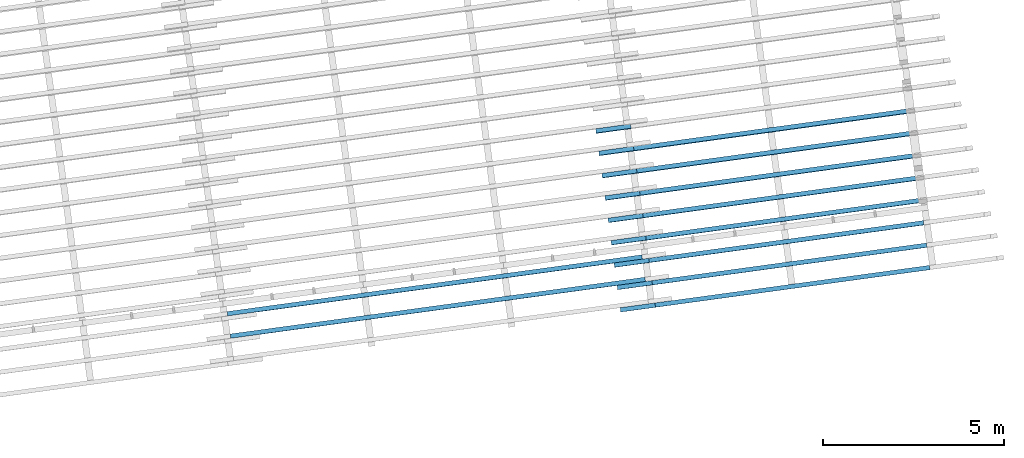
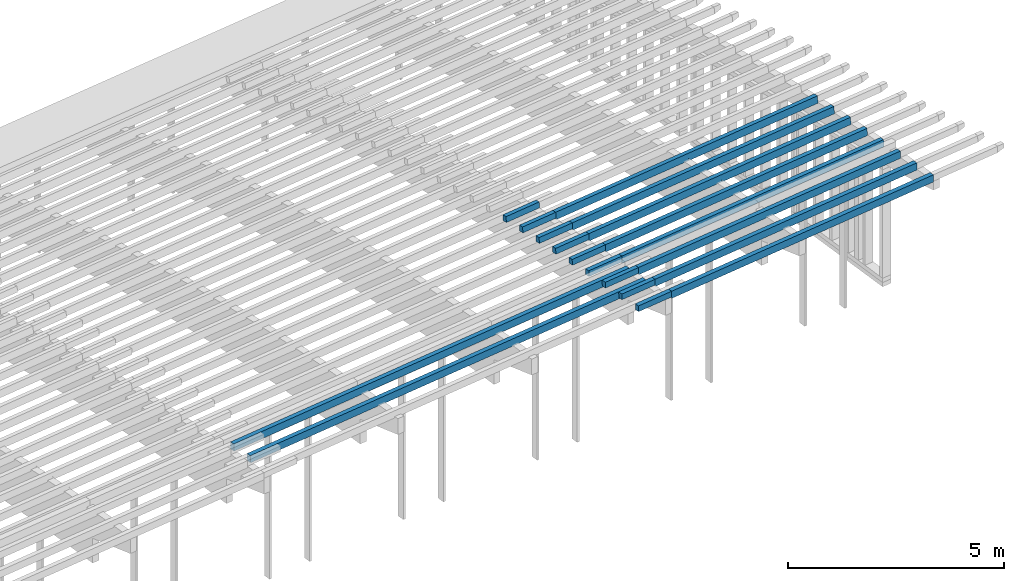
# One storey, part 10 of 18: 19 building element parts, 11 elements without a shape of their own.
"""IFC2X3 building model written with IfcOpenShell, lengths in metres."""

from ifc_helpers import new_model, entity, si_unit, converted_unit, derived_unit, money_unit, direction, frame, origin_with_axes, place, context, subcontext, project, spatial, faceted_brep, material, type_object, element, aggregate, save


model = new_model("IFC2X3")

# Units and contexts
model_context = context("Model", 3, precision=1e-05, world=origin_with_axes(), true_north=direction((0.0, 1.0)))
body_context = subcontext(model_context, "Body", "Model", "MODEL_VIEW")
ifc_project = project(units=[si_unit("LENGTHUNIT", "METRE"), si_unit("AREAUNIT", "SQUARE_METRE"), si_unit("VOLUMEUNIT", "CUBIC_METRE"), converted_unit("PLANEANGLEUNIT", "DEGREE", entity("IfcPlaneAngleMeasure", 0.0174532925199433), si_unit("PLANEANGLEUNIT", "RADIAN"), dimensions=[0, 0, 0, 0, 0, 0, 0]), money_unit("EUR"), converted_unit("TIMEUNIT", "Year", entity("IfcTimeMeasure", 31557600.0), si_unit("TIMEUNIT", "SECOND"), dimensions=[0, 0, 1, 0, 0, 0, 0]), si_unit("MASSUNIT", "GRAM", prefix="KILO"), si_unit("THERMODYNAMICTEMPERATUREUNIT", "DEGREE_CELSIUS"), si_unit("LUMINOUSINTENSITYUNIT", "LUMEN"), si_unit("ENERGYUNIT", "JOULE", prefix="MEGA"), derived_unit("THERMALCONDUCTANCEUNIT", [(si_unit("POWERUNIT", "WATT"), 1), (si_unit("LENGTHUNIT", "METRE"), -1), (si_unit("THERMODYNAMICTEMPERATUREUNIT", "KELVIN"), -1)]), derived_unit("SPECIFICHEATCAPACITYUNIT", [(si_unit("ENERGYUNIT", "JOULE"), 1), (si_unit("MASSUNIT", "GRAM", prefix="KILO"), -1), (si_unit("THERMODYNAMICTEMPERATUREUNIT", "KELVIN"), -1)]), derived_unit("MASSDENSITYUNIT", [(si_unit("MASSUNIT", "GRAM", prefix="KILO"), 1), (si_unit("VOLUMEUNIT", "CUBIC_METRE"), -1)])], contexts=[model_context])

# Site, building, storey
site_placement = place(None, origin_with_axes())
site = spatial("IfcSite", under=ifc_project, at=site_placement, Name="Gelände", CompositionType="ELEMENT")
building_placement = place(site_placement, origin_with_axes())
building = spatial("IfcBuilding", under=site, at=building_placement, Name="Gebäude", CompositionType="ELEMENT")
storey_placement = place(building_placement, frame((0.0, 0.0, 5.5), z_axis=(0.0, 0.0, 1.0), x_axis=(1.0, 0.0, 0.0)))
storey = spatial("IfcBuildingStorey", under=building, at=storey_placement, Name="OG", CompositionType="ELEMENT", Elevation=5.5)

# Beam, building element parts
beam_type_1 = type_object("IfcBeamType", Name="Verschiedene Strukturen - 4 Segmente - 120 x 200 x 10694 (970+7659+1875+190)", PredefinedType="NOTDEFINED")
beam_1_placement = place(storey_placement, frame((105.3127329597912, -150.0833279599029, 4.984403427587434), z_axis=(0.0, 0.0, 1.0), x_axis=(0.13571118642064, -0.9907484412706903, 0.0)))
beam_1 = element("IfcBeam", 1, at=beam_1_placement, inside=storey, type_object=beam_type_1, Name="Unterzug-031")
ifc_material = material(Name="Bauholz")
building_element_part_1_placement = place(beam_1_placement, origin_with_axes())
building_element_part_1 = element("IfcBuildingElementPart", 2, at=building_element_part_1_placement, material=ifc_material, Name="Bauholz", context=body_context, shape_type="Brep", body=[
    faceted_brep([(-0.05840531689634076, 0.0, -0.1605889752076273), (-0.05840531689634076, 0.9700000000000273, -0.1605889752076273), (0.06158874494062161, 0.9700000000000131, -0.1593951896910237), (0.06158874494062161, 0.0, -0.1593951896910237), (-0.05999703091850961, 0.0, -0.0005968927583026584), (-0.05999703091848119, 0.9700000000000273, -0.0005968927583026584), (0.05999703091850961, 0.9700000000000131, 0.0005968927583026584), (0.05999703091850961, 0.0, 0.0005968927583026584)], [[[0, 1, 2, 3]], [[4, 5, 1, 0]], [[2, 1, 5, 6]], [[3, 2, 6, 7]], [[4, 0, 3, 7]], [[7, 6, 5, 4]]]),
])
building_element_part_2_placement = place(beam_1_placement, origin_with_axes())
building_element_part_2 = element("IfcBuildingElementPart", 3, at=building_element_part_2_placement, material=ifc_material, Name="Bauholz", context=body_context, shape_type="Brep", body=[
    faceted_brep([(-0.05800738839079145, 0.9699999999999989, -0.2005869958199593), (-0.05800738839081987, 8.629151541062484, -0.2005869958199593), (0.06198667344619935, 8.629151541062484, -0.199393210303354), (0.06198667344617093, 0.9699999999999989, -0.199393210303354), (-0.05999703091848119, 0.9699999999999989, -0.0005968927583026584), (-0.05999703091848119, 8.629151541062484, -0.0005968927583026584), (0.05999703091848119, 8.629151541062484, 0.0005968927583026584), (0.05999703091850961, 0.9699999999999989, 0.0005968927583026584)], [[[0, 1, 2, 3]], [[4, 5, 1, 0]], [[2, 1, 5, 6]], [[3, 2, 6, 7]], [[4, 0, 3, 7]], [[7, 6, 5, 4]]]),
])
aggregate(beam_1, [building_element_part_1, building_element_part_2])

beam_type_2 = type_object("IfcBeamType", Name="Verschiedene Strukturen - 4 Segmente - 120 x 200 x 10600 (970+7659+1781+190)", PredefinedType="NOTDEFINED")
beam_2_placement = place(storey_placement, frame((105.2280311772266, -149.4649695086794, 4.975930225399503), z_axis=(0.0, 0.0, 1.0), x_axis=(0.1357111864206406, -0.9907484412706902, 0.0)))
beam_2 = element("IfcBeam", 4, at=beam_2_placement, inside=storey, type_object=beam_type_2, Name="Unterzug-031")
building_element_part_3_placement = place(beam_2_placement, origin_with_axes())
building_element_part_3 = element("IfcBuildingElementPart", 5, at=building_element_part_3_placement, material=ifc_material, Name="Bauholz", context=body_context, shape_type="Brep", body=[
    faceted_brep([(-0.05708604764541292, 0.0, -0.16106266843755), (-0.05708604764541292, 0.9699999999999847, -0.16106266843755), (0.06289418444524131, 0.9699999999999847, -0.1588846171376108), (0.06289418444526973, 0.0, -0.1588846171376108), (-0.05999011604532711, 0.0, -0.001089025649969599), (-0.05999011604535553, 0.9699999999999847, -0.001089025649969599), (0.05999011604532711, 0.9699999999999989, 0.001089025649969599), (0.05999011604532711, 0.0, 0.001089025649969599)], [[[0, 1, 2, 3]], [[4, 5, 1, 0]], [[2, 1, 5, 6]], [[3, 2, 6, 7]], [[4, 0, 3, 7]], [[7, 6, 5, 4]]]),
])
building_element_part_4_placement = place(beam_2_placement, origin_with_axes())
building_element_part_4 = element("IfcBuildingElementPart", 6, at=building_element_part_4_placement, material=ifc_material, Name="Bauholz", context=body_context, shape_type="Brep", body=[
    faceted_brep([(-0.05636003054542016, 0.9699999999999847, -0.201056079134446), (-0.05636003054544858, 8.629154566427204, -0.201056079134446), (0.06362020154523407, 8.629154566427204, -0.1988780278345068), (0.06362020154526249, 0.9699999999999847, -0.1988780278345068), (-0.05999011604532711, 0.9699999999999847, -0.001089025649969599), (-0.05999011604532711, 8.62915456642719, -0.001089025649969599), (0.05999011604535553, 8.62915456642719, 0.001089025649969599), (0.05999011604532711, 0.9699999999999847, 0.001089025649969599)], [[[0, 1, 2, 3]], [[4, 5, 1, 0]], [[2, 1, 5, 6]], [[3, 2, 6, 7]], [[4, 0, 3, 7]], [[7, 6, 5, 4]]]),
])
aggregate(beam_2, [building_element_part_3, building_element_part_4])

# Beam, building element part
beam_type_3 = type_object("IfcBeamType", Name="Verschiedene Strukturen - 3 Segmente - 120 x 200 x 12890 (660+11570+660)", PredefinedType="NOTDEFINED")
beam_3_placement = place(storey_placement, frame((93.87995743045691, -150.8985020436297, 4.973518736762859), z_axis=(0.0, 0.0, 1.0), x_axis=(0.1357111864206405, -0.9907484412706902, 0.0)))
beam_3 = element("IfcBeam", 7, at=beam_3_placement, inside=storey, type_object=beam_type_3, Name="Unterzug-031")
building_element_part_5_placement = place(beam_3_placement, origin_with_axes())
building_element_part_5 = element("IfcBuildingElementPart", 8, at=building_element_part_5_placement, material=ifc_material, Name="Bauholz", context=body_context, shape_type="Brep", body=[
    faceted_brep([(-0.05998705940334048, 12.22957971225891, -0.001246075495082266), (0.05980176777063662, 12.22957971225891, 0.001242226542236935), (0.06270437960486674, 12.2295797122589, -0.1586511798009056), (0.06330828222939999, 12.22957971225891, -0.1586402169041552), (0.06414064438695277, 12.2295797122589, -0.1987107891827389), (-0.05583347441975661, 12.22957971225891, -0.2012029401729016), (0.05998705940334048, 11.43763277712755, 0.001246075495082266), (0.05980176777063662, 11.43763277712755, 0.001242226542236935), (-0.05998705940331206, 0.6599999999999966, -0.001246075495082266), (0.05980176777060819, 0.660000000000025, 0.001242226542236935), (0.05980176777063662, 1.451946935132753, 0.001242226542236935), (0.05998705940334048, 1.451946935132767, 0.001246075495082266), (0.06270437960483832, 11.43763277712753, -0.1586511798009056), (0.06330828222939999, 11.43763277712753, -0.1586402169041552), (0.06330828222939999, 1.451946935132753, -0.1586402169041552), (0.06330828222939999, 0.6600000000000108, -0.1586402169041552), (0.0641406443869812, 0.6599999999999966, -0.1987107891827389), (-0.05583347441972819, 0.6600000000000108, -0.2012029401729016), (0.06270437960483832, 0.6599999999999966, -0.1586511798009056), (0.06270437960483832, 1.451946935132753, -0.1586511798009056)], [[[0, 1, 2, 3, 4, 5]], [[6, 7, 1, 0, 8, 9, 10, 11]], [[12, 2, 1, 7]], [[12, 13, 3, 2]], [[3, 13, 6, 11, 14, 15, 16, 4]], [[4, 16, 17, 5]], [[5, 17, 8, 0]], [[7, 6, 13, 12]], [[16, 15, 18, 9, 8, 17]], [[18, 19, 10, 9]], [[10, 19, 14, 11]], [[19, 18, 15, 14]]]),
])
aggregate(beam_3, [building_element_part_5])

# Beam, building element parts
beam_type_4 = type_object("IfcBeamType", Name="Verschiedene Strukturen - 4 Segmente - 120 x 200 x 10509 (970+7659+1690+190)", PredefinedType="NOTDEFINED")
beam_4_placement = place(storey_placement, frame((105.1432004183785, -148.8456694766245, 4.960992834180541), z_axis=(0.0, 0.0, 1.0), x_axis=(0.1357111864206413, -0.9907484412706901, 0.0)))
beam_4 = element("IfcBeam", 9, at=beam_4_placement, inside=storey, type_object=beam_type_4, Name="Unterzug-031")
building_element_part_6_placement = place(beam_4_placement, origin_with_axes())
building_element_part_6 = element("IfcBuildingElementPart", 10, at=building_element_part_6_placement, material=ifc_material, Name="Bauholz", context=body_context, shape_type="Brep", body=[
    faceted_brep([(-0.05533987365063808, 0.0, -0.1616709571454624), (-0.05533987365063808, 0.7919469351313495, -0.1616709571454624), (-0.05482641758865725, 0.7919469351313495, -0.1616560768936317), (-0.05482641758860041, 0.9699999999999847, -0.1616560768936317), (0.0646097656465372, 0.9699999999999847, -0.1581947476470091), (0.0646097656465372, 0.0, -0.1581947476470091), (-0.05997390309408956, 0.9699999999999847, -0.001769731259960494), (-0.05997390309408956, 0.7919469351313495, -0.001769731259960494), (-0.05997481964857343, 0.0, -0.001738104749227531), (-0.05997481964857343, 0.9699999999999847, -0.001738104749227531), (-0.0597674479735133, 0.7919469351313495, -0.001763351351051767), (-0.05976744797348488, 0.9699999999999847, -0.001763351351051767), (0.05997481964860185, 0.9699999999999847, 0.001738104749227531), (0.05997481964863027, 0.0, 0.001738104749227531)], [[[0, 1, 2, 3, 4, 5]], [[6, 7, 1, 0, 8, 9]], [[10, 2, 1, 7]], [[10, 11, 3, 2]], [[3, 11, 6, 9, 12, 4]], [[13, 5, 4, 12]], [[13, 8, 0, 5]], [[7, 6, 11, 10]], [[8, 13, 12, 9]]]),
])
building_element_part_7_placement = place(beam_4_placement, origin_with_axes())
building_element_part_7 = element("IfcBuildingElementPart", 11, at=building_element_part_7_placement, material=ifc_material, Name="Bauholz", context=body_context, shape_type="Brep", body=[
    faceted_brep([(-0.0553389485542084, 1.45194693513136, -0.1617028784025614), (-0.05997390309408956, 1.451946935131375, -0.001769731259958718), (-0.05997390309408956, 0.9699999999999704, -0.001769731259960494), (-0.05997481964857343, 0.9699999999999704, -0.001738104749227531), (-0.05997481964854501, 8.629151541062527, -0.001738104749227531), (-0.05418113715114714, 8.62915154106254, -0.201654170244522), (-0.05418113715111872, 0.9699999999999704, -0.201654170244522), (-0.05533894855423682, 0.9699999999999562, -0.1617028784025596), (-0.0597674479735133, 1.45194693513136, -0.001763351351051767), (-0.05482546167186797, 1.45194693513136, -0.1616870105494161), (-0.05976744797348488, 0.9699999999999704, -0.001763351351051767), (-0.05482546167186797, 0.9699999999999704, -0.1616870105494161), (0.06576850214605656, 0.9699999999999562, -0.198177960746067), (0.05997481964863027, 0.9699999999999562, 0.001738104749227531), (0.05997481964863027, 8.629151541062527, 0.001738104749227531), (0.06576850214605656, 8.629151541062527, -0.198177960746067)], [[[0, 1, 2, 3, 4, 5, 6, 7]], [[8, 1, 0, 9]], [[10, 2, 1, 8]], [[10, 11, 7, 6, 12, 13, 3, 2]], [[3, 13, 14, 4]], [[14, 15, 5, 4]], [[12, 6, 5, 15]], [[9, 0, 7, 11]], [[9, 11, 10, 8]], [[13, 12, 15, 14]]]),
])
aggregate(beam_4, [building_element_part_6, building_element_part_7])

# Beam, building element part
beam_5_placement = place(storey_placement, frame((93.79513367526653, -150.2792531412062, 4.957376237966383), z_axis=(0.0, 0.0, 1.0), x_axis=(0.1357111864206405, -0.9907484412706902, 0.0)))
beam_5 = element("IfcBeam", 12, at=beam_5_placement, inside=storey, type_object=beam_type_3, Name="Unterzug-031")
building_element_part_8_placement = place(beam_5_placement, origin_with_axes())
building_element_part_8 = element("IfcBuildingElementPart", 13, at=building_element_part_8_placement, material=ifc_material, Name="Bauholz", context=body_context, shape_type="Brep", body=[
    faceted_brep([(-0.05997137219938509, 12.22957971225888, -0.00185324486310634), (0.0597649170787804, 12.22957971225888, 0.001846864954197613), (0.0643989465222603, 12.22957971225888, -0.1580543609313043), (0.06491240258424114, 12.2295797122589, -0.1580394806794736), (0.06614885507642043, 12.22957971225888, -0.1980513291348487), (-0.05379388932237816, 12.22957971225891, -0.2017578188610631), (0.05997137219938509, 11.43763277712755, 0.00185324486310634), (0.0597649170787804, 11.43763277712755, 0.00184686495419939), (-0.05997137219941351, 0.6599999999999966, -0.00185324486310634), (0.05976491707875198, 0.6599999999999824, 0.001846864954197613), (0.05976491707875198, 1.451946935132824, 0.001846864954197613), (0.05997137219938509, 1.451946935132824, 0.00185324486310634), (0.06439894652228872, 11.43763277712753, -0.1580543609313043), (0.06491240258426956, 11.43763277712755, -0.1580394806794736), (0.06491240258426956, 1.45194693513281, -0.1580394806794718), (0.06491240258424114, 0.6599999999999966, -0.1580394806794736), (0.06614885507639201, 0.6599999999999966, -0.1980513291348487), (-0.05379388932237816, 0.6599999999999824, -0.2017578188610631), (0.06439894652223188, 0.6599999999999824, -0.1580543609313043), (0.06439894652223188, 1.45194693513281, -0.1580543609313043)], [[[0, 1, 2, 3, 4, 5]], [[6, 7, 1, 0, 8, 9, 10, 11]], [[12, 2, 1, 7]], [[12, 13, 3, 2]], [[3, 13, 6, 11, 14, 15, 16, 4]], [[4, 16, 17, 5]], [[5, 17, 8, 0]], [[7, 6, 13, 12]], [[16, 15, 18, 9, 8, 17]], [[18, 19, 10, 9]], [[10, 19, 14, 11]], [[19, 18, 15, 14]]]),
])
aggregate(beam_5, [building_element_part_8])

# Beam, building element parts
beam_type_5 = type_object("IfcBeamType", Name="Verschiedene Strukturen - 4 Segmente - 120 x 200 x 10426 (970+7659+1607+190)", PredefinedType="NOTDEFINED")
beam_6_placement = place(storey_placement, frame((105.0584006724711, -148.2265958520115, 4.939661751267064), z_axis=(0.0, 0.0, 1.0), x_axis=(0.1357111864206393, -0.9907484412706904, 0.0)))
beam_6 = element("IfcBeam", 14, at=beam_6_placement, inside=storey, type_object=beam_type_5, Name="Unterzug-031")
building_element_part_9_placement = place(beam_6_placement, origin_with_axes())
building_element_part_9 = element("IfcBuildingElementPart", 15, at=building_element_part_9_placement, material=ifc_material, Name="Bauholz", context=body_context, shape_type="Brep", body=[
    faceted_brep([(-0.05378541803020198, 0.0, -0.1621947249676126), (-0.05378541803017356, 0.7919469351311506, -0.1621947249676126), (-0.05339659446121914, 0.7919469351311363, -0.1621797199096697), (-0.05339659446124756, 0.9699999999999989, -0.1621797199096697), (0.06612532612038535, 0.9700000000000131, -0.1575672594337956), (0.06612532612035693, 0.0, -0.1575672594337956), (-0.05992630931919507, 0.9700000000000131, -0.003066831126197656), (-0.05992630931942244, 0.7919469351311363, -0.003066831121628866), (-0.05995537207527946, 0.0, -0.002313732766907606), (-0.05995537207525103, 0.9700000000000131, -0.002313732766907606), (0.05995537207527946, 0.9699999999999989, 0.002313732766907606), (0.05995537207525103, 0.0, 0.002313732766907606)], [[[0, 1, 2, 3, 4, 5]], [[6, 7, 1, 0, 8, 9]], [[7, 2, 1]], [[7, 6, 3, 2]], [[4, 3, 6, 9, 10]], [[4, 10, 11, 5]], [[0, 5, 11, 8]], [[10, 9, 8, 11]]]),
])
building_element_part_10_placement = place(beam_6_placement, origin_with_axes())
building_element_part_10 = element("IfcBuildingElementPart", 16, at=building_element_part_10_placement, material=ifc_material, Name="Bauholz", context=body_context, shape_type="Brep", body=[
    faceted_brep([(-0.05224292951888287, 0.9699999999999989, -0.202164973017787), (-0.05378431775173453, 0.9699999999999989, -0.1622232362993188), (-0.05378458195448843, 1.451946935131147, -0.1622232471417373), (-0.05995606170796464, 1.451946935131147, -0.002341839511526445), (-0.05995563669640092, 4.732937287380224, -0.002313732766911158), (-0.05378531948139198, 4.732937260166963, -0.1621972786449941), (-0.05378531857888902, 4.852937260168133, -0.1621973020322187), (-0.05995510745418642, 4.852937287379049, -0.002313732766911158), (-0.05995537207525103, 8.629160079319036, -0.002313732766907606), (-0.05224292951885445, 8.629160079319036, -0.202164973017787), (0.05995537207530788, 0.9699999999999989, 0.002313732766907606), (-0.05995606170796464, 0.9699999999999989, -0.002341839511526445), (-0.053395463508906, 0.9699999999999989, -0.1622072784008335), (0.06766781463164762, 0.9699999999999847, -0.1975375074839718), (-0.05339546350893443, 1.451946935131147, -0.1622072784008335), (-0.05301437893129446, 4.732937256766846, -0.1621631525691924), (-0.05301384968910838, 4.852937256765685, -0.1621631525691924), (0.05995537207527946, 8.629160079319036, 0.002313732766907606), (0.06766781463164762, 8.629160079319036, -0.1975375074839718)], [[[0, 1, 2, 3, 4, 5, 6, 7, 8, 9]], [[10, 11, 12, 1, 0, 13]], [[12, 14, 2, 1]], [[2, 14, 3]], [[10, 4, 3]], [[4, 15, 5]], [[16, 6, 5, 15]], [[6, 16, 7]], [[7, 10, 8]], [[9, 8, 17, 18]], [[9, 18, 13, 0]], [[10, 3, 11]], [[3, 14, 12, 11]], [[18, 17, 10, 13]], [[10, 7, 4]], [[15, 4, 7, 16]], [[8, 10, 17]]]),
])
aggregate(beam_6, [building_element_part_9, building_element_part_10])

beam_type_6 = type_object("IfcBeamType", Name="Verschiedene Strukturen - 4 Segmente - 120 x 200 x 10342 (970+7659+1523+190)", PredefinedType="NOTDEFINED")
beam_7_placement = place(storey_placement, frame((104.9736313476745, -147.6077443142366, 4.912074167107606), z_axis=(0.0, 0.0, 1.0), x_axis=(0.1357111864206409, -0.9907484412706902, 0.0)))
beam_7 = element("IfcBeam", 17, at=beam_7_placement, inside=storey, type_object=beam_type_6, Name="Unterzug-031")
building_element_part_11_placement = place(beam_7_placement, origin_with_axes())
building_element_part_11 = element("IfcBuildingElementPart", 18, at=building_element_part_11_placement, material=ifc_material, Name="Bauholz", context=body_context, shape_type="Brep", body=[
    faceted_brep([(-0.05211240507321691, 0.9700000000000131, -0.1627399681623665), (-0.05172437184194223, 0.9699999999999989, -0.1627171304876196), (-0.0598831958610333, 0.9699999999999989, -0.003854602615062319), (-0.05992836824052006, 0.9699999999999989, -0.002930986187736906), (0.05992836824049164, 0.9699999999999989, 0.002930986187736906), (0.06774433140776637, 0.9700000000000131, -0.1568779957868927), (-0.05172437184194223, 0.7919469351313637, -0.1627171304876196), (-0.05211254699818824, 0.7919469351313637, -0.1627370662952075), (-0.05988319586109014, 0.7919469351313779, -0.003854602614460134), (-0.05211240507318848, 0.0, -0.1627399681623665), (-0.05992836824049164, 0.0, -0.002930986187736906), (0.05992836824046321, 0.0, 0.002930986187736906), (0.06774433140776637, 0.0, -0.1568779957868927)], [[[0, 1, 2, 3, 4, 5]], [[6, 1, 0, 7]], [[8, 2, 1, 6]], [[8, 7, 0, 9, 10, 3, 2]], [[4, 3, 10, 11]], [[5, 4, 11, 12]], [[0, 5, 12, 9]], [[6, 7, 8]], [[9, 12, 11, 10]]]),
])
building_element_part_12_placement = place(beam_7_placement, origin_with_axes())
building_element_part_12 = element("IfcBuildingElementPart", 19, at=building_element_part_12_placement, material=ifc_material, Name="Bauholz", context=body_context, shape_type="Brep", body=[
    faceted_brep([(-0.05015841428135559, 0.9700000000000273, -0.2026922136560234), (-0.05211254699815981, 0.9700000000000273, -0.1627370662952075), (-0.0521128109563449, 1.45194693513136, -0.1627370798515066), (-0.0599307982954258, 1.45194693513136, -0.002927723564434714), (-0.05992863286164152, 4.73293728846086, -0.002930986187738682), (-0.05211229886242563, 4.732937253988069, -0.16274213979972), (-0.05211229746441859, 4.852937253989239, -0.1627421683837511), (-0.05992810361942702, 4.852937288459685, -0.002930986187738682), (-0.05992836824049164, 8.629162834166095, -0.002930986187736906), (-0.05015841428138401, 8.62916283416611, -0.2026922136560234), (0.05992836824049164, 0.9700000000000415, 0.002930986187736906), (-0.0599307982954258, 0.9700000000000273, -0.002927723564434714), (-0.05172437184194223, 0.9700000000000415, -0.1627171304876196), (0.06969832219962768, 0.9700000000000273, -0.1968302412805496), (-0.05172437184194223, 1.451946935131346, -0.1627171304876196), (0.05992810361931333, 4.732939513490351, 0.002930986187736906), (0.05992863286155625, 4.85293951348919, 0.002930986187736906), (0.05992836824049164, 8.629162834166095, 0.002930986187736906), (-0.05141115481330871, 4.732937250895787, -0.1627041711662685), (-0.05141062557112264, 4.852937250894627, -0.1627041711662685), (0.06969832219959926, 8.629162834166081, -0.1968302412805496), (0.06774441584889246, 4.852939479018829, -0.1568797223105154), (0.06774441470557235, 4.732939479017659, -0.1568796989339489), (0.06743795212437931, 4.852939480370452, -0.1568932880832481), (0.06743742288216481, 4.732939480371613, -0.1568932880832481)], [[[0, 1, 2, 3, 4, 5, 6, 7, 8, 9]], [[10, 11, 12, 1, 0, 13]], [[12, 14, 2, 1]], [[2, 14, 3]], [[7, 4, 3, 11, 10, 15, 16, 17, 8]], [[5, 4, 18]], [[5, 18, 19, 6]], [[7, 6, 19]], [[20, 9, 8, 17]], [[0, 9, 20, 13]], [[3, 14, 12, 11]], [[10, 13, 20, 17, 16, 21, 22, 15]], [[7, 19, 18, 4]], [[23, 16, 15, 24]], [[21, 16, 23]], [[23, 24, 22, 21]], [[15, 22, 24]]]),
])
aggregate(beam_7, [building_element_part_11, building_element_part_12])

beam_type_7 = type_object("IfcBeamType", Name="Verschiedene Strukturen - 4 Segmente - 120 x 200 x 10261 (970+7659+1442+190)", PredefinedType="NOTDEFINED")
beam_8_placement = place(storey_placement, frame((104.8889035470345, -146.9891959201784, 4.878264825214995), z_axis=(0.0, 0.0, 1.0), x_axis=(0.1357111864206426, -0.99074844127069, 0.0)))
beam_8 = element("IfcBeam", 20, at=beam_8_placement, inside=storey, type_object=beam_type_7, Name="Unterzug-031")
building_element_part_13_placement = place(beam_8_placement, origin_with_axes())
building_element_part_13 = element("IfcBuildingElementPart", 21, at=building_element_part_13_placement, material=ifc_material, Name="Bauholz", context=body_context, shape_type="Brep", body=[
    faceted_brep([(-0.05040536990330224, 0.0, -0.1632767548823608), (-0.05040536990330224, 0.7919469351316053, -0.1632767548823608), (-0.05010210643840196, 0.7919469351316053, -0.1632587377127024), (-0.05010210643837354, 0.9699999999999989, -0.1632587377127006), (0.0693834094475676, 0.9700000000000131, -0.1561599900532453), (0.0693834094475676, 0.0, -0.1561599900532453), (-0.05978997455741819, 0.9700000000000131, -0.005315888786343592), (-0.0597899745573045, 0.7919469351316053, -0.005315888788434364), (-0.05989438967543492, 0.0, -0.00355838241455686), (-0.05989438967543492, 0.9699999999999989, -0.00355838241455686), (0.0598943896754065, 0.9699999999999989, 0.00355838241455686), (0.05989438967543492, 0.0, 0.00355838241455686)], [[[0, 1, 2, 3, 4, 5]], [[6, 7, 1, 0, 8, 9]], [[7, 2, 1]], [[7, 6, 3, 2]], [[4, 3, 6, 9, 10]], [[4, 10, 11, 5]], [[0, 5, 11, 8]], [[10, 9, 8, 11]]]),
])
building_element_part_14_placement = place(beam_8_placement, origin_with_axes())
building_element_part_14 = element("IfcBuildingElementPart", 22, at=building_element_part_14_placement, material=ifc_material, Name="Bauholz", context=body_context, shape_type="Brep", body=[
    faceted_brep([(-0.04803311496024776, 0.9699999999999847, -0.2032063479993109), (-0.05040086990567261, 0.9699999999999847, -0.1633524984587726), (-0.05040113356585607, 1.451946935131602, -0.1633525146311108), (-0.0598931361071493, 1.451946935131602, -0.003634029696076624), (-0.05989465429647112, 4.732937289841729, -0.003558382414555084), (-0.0504052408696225, 4.732937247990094, -0.1632789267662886), (-0.05040523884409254, 4.85293724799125, -0.1632789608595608), (-0.05989412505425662, 4.852937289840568, -0.003558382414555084), (-0.05989438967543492, 8.62916558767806, -0.00355838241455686), (-0.04803311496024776, 8.62916558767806, -0.2032063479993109), (0.0598943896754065, 0.9699999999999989, 0.00355838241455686), (-0.0598931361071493, 0.9699999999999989, -0.003634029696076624), (-0.05009749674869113, 0.9699999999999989, -0.1633338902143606), (0.07175566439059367, 0.9699999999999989, -0.1960895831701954), (-0.05009749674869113, 1.451946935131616, -0.1633338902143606), (-0.04970372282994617, 4.732937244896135, -0.1632335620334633), (-0.04970319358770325, 4.852937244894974, -0.1632335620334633), (0.05989438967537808, 8.62916558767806, 0.00355838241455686), (0.07175566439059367, 8.62916558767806, -0.1960895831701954), (0.06938353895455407, 4.732939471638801, -0.1561621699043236), (0.05989412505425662, 4.73293951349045, 0.003558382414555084), (0.05989465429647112, 4.852939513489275, 0.003558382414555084), (0.06938354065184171, 4.852939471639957, -0.1561621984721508), (0.0689793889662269, 4.732939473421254, -0.1561840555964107), (0.0689799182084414, 4.852939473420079, -0.1561840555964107)], [[[0, 1, 2, 3, 4, 5, 6, 7, 8, 9]], [[10, 11, 12, 1, 0, 13]], [[12, 14, 2, 1]], [[2, 14, 3]], [[10, 4, 3]], [[4, 15, 5]], [[16, 6, 5, 15]], [[6, 16, 7]], [[10, 8, 7]], [[8, 17, 18, 9]], [[18, 13, 0, 9]], [[10, 3, 11]], [[3, 14, 12, 11]], [[19, 20, 10, 13, 18, 17, 21, 22]], [[10, 7, 4]], [[15, 4, 7, 16]], [[8, 10, 20]], [[8, 21, 17]], [[19, 23, 20]], [[21, 24, 22]], [[19, 22, 24, 23]], [[8, 20, 21]], [[20, 23, 24, 21]]]),
])
aggregate(beam_8, [building_element_part_13, building_element_part_14])

# Beam, building element part
beam_type_8 = type_object("IfcBeamType", Name="Verschiedene Strukturen - 4 Segmente - 120 x 200 x 10184 (970+7659+1365+190)", PredefinedType="NOTDEFINED")
beam_9_placement = place(storey_placement, frame((104.8042278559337, -146.3710279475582, 4.837969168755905), z_axis=(0.0, 0.0, 1.0), x_axis=(0.1357111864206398, -0.9907484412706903, 0.0)))
beam_9 = element("IfcBeam", 23, at=beam_9_placement, inside=storey, type_object=beam_type_8, Name="Unterzug-031")
building_element_part_15_placement = place(beam_9_placement, origin_with_axes())
building_element_part_15 = element("IfcBuildingElementPart", 24, at=building_element_part_15_placement, material=ifc_material, Name="Bauholz", context=body_context, shape_type="Brep", body=[
    faceted_brep([(-0.04608029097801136, 0.9699999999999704, -0.2036580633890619), (-0.04883376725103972, 0.9699999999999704, -0.1637814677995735), (-0.0488340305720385, 1.451946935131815, -0.1637814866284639), (-0.05985871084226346, 1.451946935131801, -0.004161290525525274), (-0.05985773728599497, 4.732937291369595, -0.004133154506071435), (-0.04883556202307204, 4.732937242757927, -0.1637554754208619), (-0.04883555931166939, 4.852937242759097, -0.163755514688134), (-0.0598572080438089, 4.852937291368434, -0.004133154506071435), (-0.05985747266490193, 8.629168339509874, -0.004133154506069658), (-0.04608029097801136, 8.629168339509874, -0.2036580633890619), (0.05985747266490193, 0.9699999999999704, 0.004133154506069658), (-0.05985871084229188, 0.9699999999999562, -0.004161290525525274), (-0.0484469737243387, 0.9699999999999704, -0.1637538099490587), (0.0736346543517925, 0.9699999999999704, -0.1953917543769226), (-0.04844697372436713, 1.451946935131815, -0.1637538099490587), (-0.04809246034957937, 4.732937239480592, -0.1637000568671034), (-0.04809193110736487, 4.852937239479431, -0.1637000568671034), (0.05985747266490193, 8.629168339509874, 0.004133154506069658), (0.0736346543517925, 8.629168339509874, -0.1953917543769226), (0.07087932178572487, 4.732939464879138, -0.1554882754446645), (0.0598572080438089, 4.73293951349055, 0.004133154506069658), (0.05985773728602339, 4.85293951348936, 0.004133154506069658), (0.07087932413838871, 4.852939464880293, -0.1554883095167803), (0.07061557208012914, 4.732939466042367, -0.1555053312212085), (0.07061610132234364, 4.852939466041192, -0.1555053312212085)], [[[0, 1, 2, 3, 4, 5, 6, 7, 8, 9]], [[10, 11, 12, 1, 0, 13]], [[12, 14, 2, 1]], [[2, 14, 3]], [[10, 4, 3]], [[4, 15, 5]], [[16, 6, 5, 15]], [[6, 16, 7]], [[10, 8, 7]], [[8, 17, 18, 9]], [[18, 13, 0, 9]], [[10, 3, 11]], [[3, 14, 12, 11]], [[19, 20, 10, 13, 18, 17, 21, 22]], [[10, 7, 4]], [[15, 4, 7, 16]], [[8, 10, 20]], [[8, 21, 17]], [[19, 23, 20]], [[21, 24, 22]], [[19, 22, 24, 23]], [[8, 20, 21]], [[20, 23, 24, 21]]]),
])

# Beam, building element parts
beam_type_9 = type_object("IfcBeamType", Name="Verschiedene Strukturen - 4 Segmente - 120 x 200 x 10110 (970+7659+1291+190)", PredefinedType="NOTDEFINED")
beam_10_placement = place(storey_placement, frame((104.7196111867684, -145.7532908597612, 4.791438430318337), z_axis=(0.0, 0.0, 1.0), x_axis=(0.13571118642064, -0.9907484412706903, 0.0)))
beam_10 = element("IfcBeam", 25, at=beam_10_placement, inside=storey, type_object=beam_type_9, Name="Unterzug-031")
building_element_part_16_placement = place(beam_10_placement, origin_with_axes())
building_element_part_16 = element("IfcBuildingElementPart", 26, at=building_element_part_16_placement, material=ifc_material, Name="Bauholz", context=body_context, shape_type="Brep", body=[
    faceted_brep([(-0.0469507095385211, 0.9700000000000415, -0.1642491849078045), (-0.04678732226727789, 0.9700000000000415, -0.1642358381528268), (-0.05980944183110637, 0.9700000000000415, -0.004822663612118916), (0.05980589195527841, 0.9700000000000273, 0.004822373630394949), (0.07266555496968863, 0.9700000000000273, -0.1546600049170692), (-0.04694622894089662, 0.9700000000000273, -0.1643047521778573), (-0.04678732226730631, 0.7919469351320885, -0.1642358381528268), (-0.0469507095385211, 0.7919469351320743, -0.1642491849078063), (-0.05980944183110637, 0.7919469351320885, -0.004822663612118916), (-0.05980589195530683, 0.0, -0.004822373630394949), (0.05980589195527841, 0.0, 0.004822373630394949), (0.07266555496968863, 0.0, -0.1546600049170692), (-0.04694622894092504, 0.0, -0.1643047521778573)], [[[0, 1, 2, 3, 4, 5]], [[6, 1, 0, 7]], [[8, 2, 1, 6]], [[3, 2, 8, 9, 10]], [[10, 11, 4, 3]], [[11, 12, 5, 4]], [[8, 7, 0, 5, 12, 9]], [[6, 7, 8]], [[10, 9, 12, 11]]]),
])
building_element_part_17_placement = place(beam_10_placement, origin_with_axes())
building_element_part_17 = element("IfcBuildingElementPart", 27, at=building_element_part_17_placement, material=ifc_material, Name="Bauholz", context=body_context, shape_type="Brep", body=[
    faceted_brep([(-0.04373131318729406, 0.9700000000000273, -0.2041753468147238), (-0.04695070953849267, 0.9700000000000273, -0.1642491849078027), (-0.04695097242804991, 1.451946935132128, -0.164249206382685), (-0.05981398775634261, 1.451946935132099, -0.004767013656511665), (-0.05980615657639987, 4.732937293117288, -0.004822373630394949), (-0.04694613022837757, 4.732937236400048, -0.1643059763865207), (-0.0469461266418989, 4.852937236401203, -0.164306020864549), (-0.0598056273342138, 4.852937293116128, -0.004822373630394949), (-0.05980589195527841, 8.629171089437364, -0.004822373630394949), (-0.04373131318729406, 8.629171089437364, -0.2041753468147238), (0.05980589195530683, 0.9700000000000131, 0.004822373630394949), (-0.05981398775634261, 0.9700000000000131, -0.004767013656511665), (-0.04678732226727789, 0.9700000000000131, -0.1642358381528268), (0.07588047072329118, 0.9700000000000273, -0.1945305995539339), (-0.04678732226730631, 1.451946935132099, -0.1642358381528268), (-0.04645001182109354, 4.732937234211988, -0.1642639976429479), (-0.04644948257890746, 4.852937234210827, -0.1642639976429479), (0.05980589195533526, 8.629171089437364, 0.004822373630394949), (0.07588047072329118, 8.629171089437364, -0.1945305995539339), (0.07266578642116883, 4.73293945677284, -0.1546628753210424), (0.0598056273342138, 4.732939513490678, 0.004822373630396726), (0.05980615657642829, 4.852939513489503, 0.004822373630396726), (0.07266578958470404, 4.85293945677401, -0.1546629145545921), (0.07213794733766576, 4.732939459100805, -0.1547022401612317), (0.07213847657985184, 4.852939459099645, -0.1547022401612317)], [[[0, 1, 2, 3, 4, 5, 6, 7, 8, 9]], [[10, 11, 12, 1, 0, 13]], [[12, 14, 2, 1]], [[2, 14, 3]], [[10, 4, 3]], [[4, 15, 5]], [[16, 6, 5, 15]], [[6, 16, 7]], [[10, 8, 7]], [[8, 17, 18, 9]], [[18, 13, 0, 9]], [[10, 3, 11]], [[3, 14, 12, 11]], [[19, 20, 10, 13, 18, 17, 21, 22]], [[10, 7, 4]], [[15, 4, 7, 16]], [[8, 10, 20]], [[8, 21, 17]], [[19, 23, 20]], [[21, 24, 22]], [[19, 22, 24, 23]], [[8, 20, 21]], [[20, 23, 24, 21]]]),
])
aggregate(beam_10, [building_element_part_16, building_element_part_17])

# Beam, building element part
beam_type_10 = type_object("IfcBeamType", Name="Verschiedene Strukturen - 4 Segmente - 120 x 200 x 10040 (970+7659+1220+190)", PredefinedType="NOTDEFINED")
beam_11_placement = place(storey_placement, frame((104.6350613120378, -145.1360413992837, 4.738673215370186), z_axis=(0.0, 0.0, 1.0), x_axis=(0.1357111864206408, -0.9907484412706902, 0.0)))
beam_11 = element("IfcBeam", 28, at=beam_11_placement, inside=storey, type_object=beam_type_10, Name="Unterzug-031")
building_element_part_18_placement = place(beam_11_placement, origin_with_axes())
building_element_part_18 = element("IfcBuildingElementPart", 29, at=building_element_part_18_placement, material=ifc_material, Name="Bauholz", context=body_context, shape_type="Brep", body=[
    faceted_brep([(-0.05976153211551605, 0.0, -0.005344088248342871), (-0.04551063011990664, 0.0, -0.1647081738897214), (0.07401243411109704, 0.0, -0.1540199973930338), (0.05976153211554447, 0.0, 0.005344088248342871), (-0.05975235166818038, 0.7919469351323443, -0.005446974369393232), (-0.04551063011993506, 0.7919469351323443, -0.1647081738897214), (-0.05976153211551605, 0.9699999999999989, -0.005344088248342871), (-0.05975160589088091, 0.9699999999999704, -0.00545509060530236), (0.07401243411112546, 0.9699999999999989, -0.1540199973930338), (-0.04512150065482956, 0.7919469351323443, -0.1646733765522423), (-0.04512150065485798, 0.9699999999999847, -0.1646733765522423), (0.05976153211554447, 0.9699999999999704, 0.005344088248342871)], [[[0, 1, 2, 3]], [[4, 5, 1, 0, 6, 7]], [[8, 2, 1, 5, 9, 10]], [[11, 3, 2, 8]], [[6, 0, 3, 11]], [[9, 5, 4]], [[7, 6, 11, 8, 10]], [[9, 4, 7, 10]]]),
])
aggregate(beam_11, [building_element_part_18])

# Building element part
building_element_part_19_placement = place(beam_9_placement, origin_with_axes())
building_element_part_19 = element("IfcBuildingElementPart", 30, at=building_element_part_19_placement, material=ifc_material, Name="Bauholz", context=body_context, shape_type="Brep", body=[
    faceted_brep([(-0.04883572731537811, 0.0, -0.1637530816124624), (-0.04883572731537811, 0.79194693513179, -0.1637530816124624), (-0.04844893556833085, 0.79194693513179, -0.1637263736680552), (-0.04844893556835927, 0.9699999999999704, -0.1637263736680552), (0.07087921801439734, 0.9699999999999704, -0.1554867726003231), (0.07087921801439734, 0.0, -0.1554867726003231), (-0.05976608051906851, 0.9699999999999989, -0.005456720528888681), (-0.05976608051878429, 0.79194693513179, -0.005456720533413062), (-0.05985747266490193, 0.0, -0.004133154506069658), (-0.05985747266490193, 0.9699999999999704, -0.004133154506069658), (0.05985747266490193, 0.9699999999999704, 0.004133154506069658), (0.05985747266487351, 0.0, 0.004133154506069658)], [[[0, 1, 2, 3, 4, 5]], [[6, 7, 1, 0, 8, 9]], [[7, 2, 1]], [[7, 6, 3, 2]], [[4, 3, 6, 9, 10]], [[4, 10, 11, 5]], [[0, 5, 11, 8]], [[10, 9, 8, 11]]]),
])

aggregate(beam_9, [building_element_part_15, building_element_part_19])

save(model, "model.ifc")
